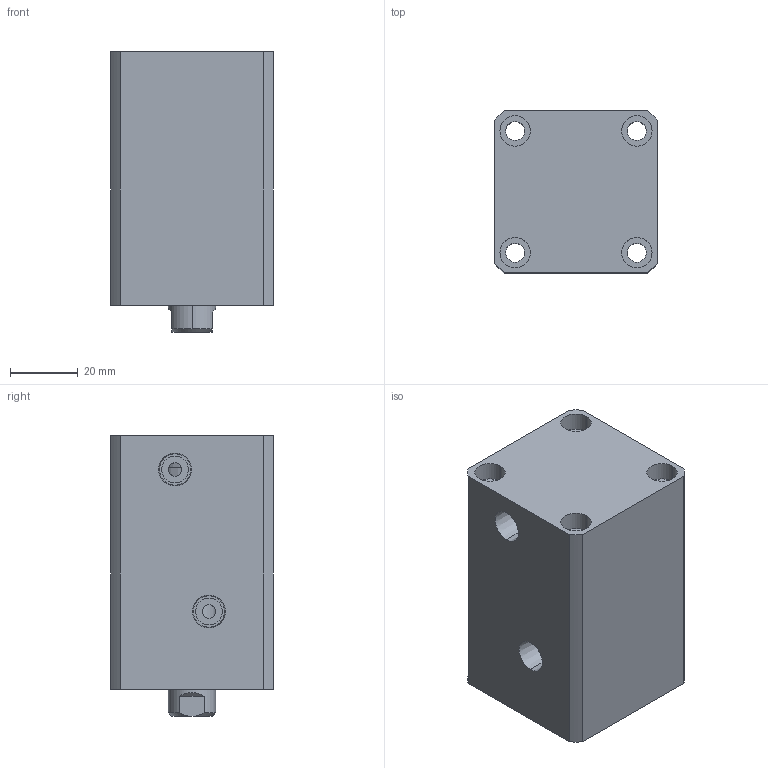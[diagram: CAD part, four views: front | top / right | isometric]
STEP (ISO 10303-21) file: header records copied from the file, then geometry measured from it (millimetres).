
FILE_DESCRIPTION (( 'STEP AP214' ), '1' );
FILE_NAME ('chtb-sd25x30n_asm.STEP', '2018-05-22T11:14:24', ( 'Windows' ), ( 'Microsoft' ), 'SwSTEP 2.0', 'SolidWorks 2015', '' );
FILE_SCHEMA (( 'AUTOMOTIVE_DESIGN' ));
Length unit declared in the file: millimetre
Products named in the file (4): CHTB-SD25X30NHSG; CHTB-SD25X30NBT; CHTB-25QG; chtb-sd25x30n_asm
Assembly tree (3 placements, depth 2):
  chtb-sd25x30n_asm
    CHTB-25QG
    CHTB-SD25X30NBT
    CHTB-SD25X30NHSG
Bounding box: 48 x 48 x 83 mm (x, y, z)
Volume: 149883.7 mm3; surface area: 41100.9 mm2
Topology: 3 solids, 3 shells, 144 faces, 377 edges, 257 vertices
Faces by surface type: cylinder 85, plane 36, cone 13, bspline 10
Entity records: 7940 total; most frequent: CARTESIAN_POINT 4299, ORIENTED_EDGE 742, DIRECTION 671, EDGE_CURVE 371, AXIS2_PLACEMENT_3D 278, VERTEX_POINT 257, EDGE_LOOP 182, ADVANCED_FACE 144
